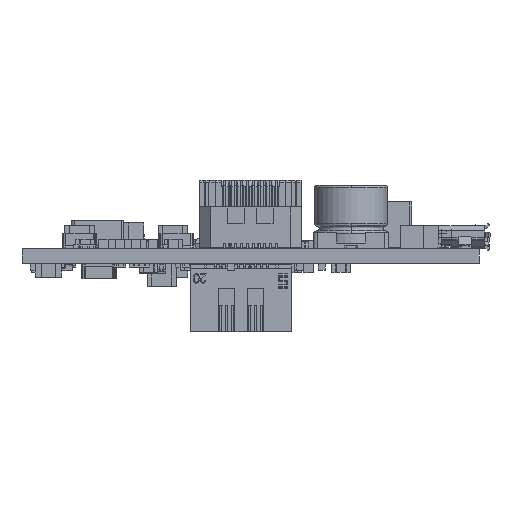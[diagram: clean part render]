
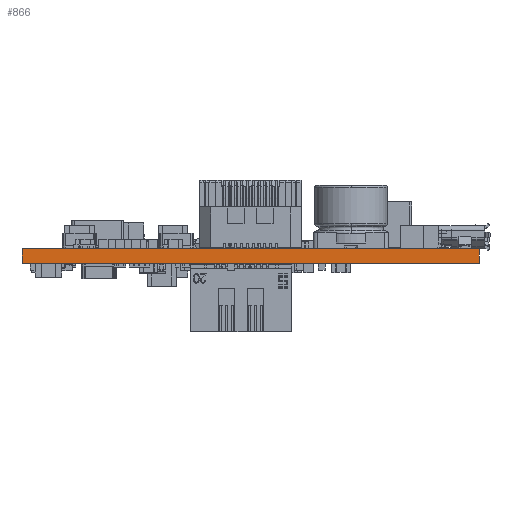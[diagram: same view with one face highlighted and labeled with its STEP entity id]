
A CAD part, left-side view. The second image highlights one B-rep face of the part: STEP entity #866.
In plain terms, the highlighted planar face has unit normal (-1, 0, 0).
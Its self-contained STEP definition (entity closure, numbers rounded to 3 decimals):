
#768 = EDGE_CURVE('',#769,#771,#773,.T.);
#769 = VERTEX_POINT('',#770);
#770 = CARTESIAN_POINT('',(0.,0.,-1.629));
#771 = VERTEX_POINT('',#772);
#772 = CARTESIAN_POINT('',(0.,0.,0.));
#773 = LINE('',#774,#775);
#774 = CARTESIAN_POINT('',(0.,0.,-1.629));
#775 = VECTOR('',#776,1.);
#776 = DIRECTION('',(0.,0.,1.));
#841 = VERTEX_POINT('',#842);
#842 = CARTESIAN_POINT('',(0.,50.,0.));
#848 = EDGE_CURVE('',#849,#841,#851,.T.);
#849 = VERTEX_POINT('',#850);
#850 = CARTESIAN_POINT('',(0.,50.,-1.629));
#851 = LINE('',#852,#853);
#852 = CARTESIAN_POINT('',(0.,50.,-1.629));
#853 = VECTOR('',#854,1.);
#854 = DIRECTION('',(0.,0.,1.));
#866 = ADVANCED_FACE('',(#867),#883,.F.);
#867 = FACE_BOUND('',#868,.F.);
#868 = EDGE_LOOP('',(#869,#870,#876,#877));
#869 = ORIENTED_EDGE('',*,*,#848,.T.);
#870 = ORIENTED_EDGE('',*,*,#871,.T.);
#871 = EDGE_CURVE('',#841,#771,#872,.T.);
#872 = LINE('',#873,#874);
#873 = CARTESIAN_POINT('',(0.,50.,0.));
#874 = VECTOR('',#875,1.);
#875 = DIRECTION('',(0.,-1.,0.));
#876 = ORIENTED_EDGE('',*,*,#768,.F.);
#877 = ORIENTED_EDGE('',*,*,#878,.F.);
#878 = EDGE_CURVE('',#849,#769,#879,.T.);
#879 = LINE('',#880,#881);
#880 = CARTESIAN_POINT('',(0.,50.,-1.629));
#881 = VECTOR('',#882,1.);
#882 = DIRECTION('',(0.,-1.,0.));
#883 = PLANE('',#884);
#884 = AXIS2_PLACEMENT_3D('',#885,#886,#887);
#885 = CARTESIAN_POINT('',(0.,50.,-1.629));
#886 = DIRECTION('',(1.,0.,0.));
#887 = DIRECTION('',(0.,-1.,0.));
